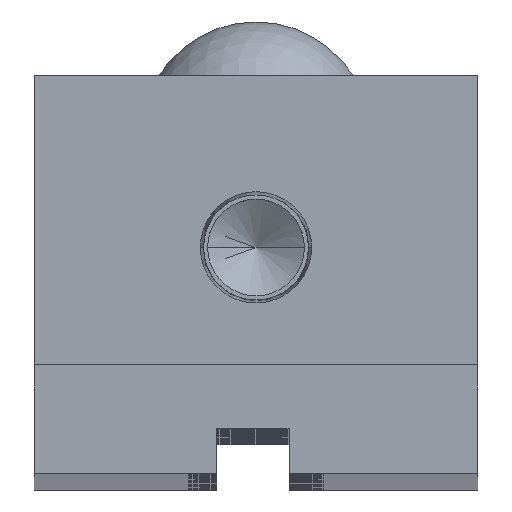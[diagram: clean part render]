
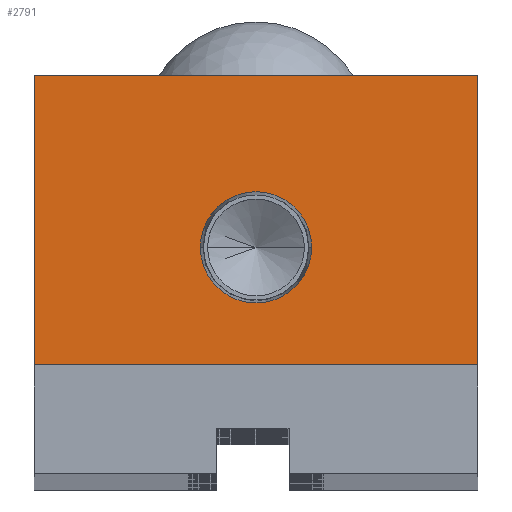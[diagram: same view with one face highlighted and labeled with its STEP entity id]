
A CAD part, top view. The second image highlights one B-rep face of the part: STEP entity #2791.
In plain terms, the highlighted planar face has unit normal (0, 0, 1).
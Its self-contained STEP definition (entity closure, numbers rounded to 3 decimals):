
#630 = CARTESIAN_POINT ( 'NONE',  ( -24.5, 32., 0. ) ) ;
#794 = DIRECTION ( 'NONE',  ( -1., 0., 0. ) ) ;
#1167 = VECTOR ( 'NONE', #4879, 1000. ) ;
#1620 = EDGE_CURVE ( 'NONE', #21570, #3661, #16015, .T. ) ;
#2537 = LINE ( 'NONE', #16406, #11871 ) ;
#2791 = ADVANCED_FACE ( 'NONE', ( #17255, #16683 ), #21151, .F. ) ;
#2955 = VERTEX_POINT ( 'NONE', #7476 ) ;
#2989 = ORIENTED_EDGE ( 'NONE', *, *, #22494, .F. ) ;
#3538 = VERTEX_POINT ( 'NONE', #10480 ) ;
#3661 = VERTEX_POINT ( 'NONE', #14641 ) ;
#3792 = EDGE_LOOP ( 'NONE', ( #11808, #7421, #21189, #14117 ) ) ;
#4011 = CARTESIAN_POINT ( 'NONE',  ( 24.5, 0., 0. ) ) ;
#4463 = DIRECTION ( 'NONE',  ( -1., 0., 0. ) ) ;
#4795 = EDGE_CURVE ( 'NONE', #3661, #6349, #13087, .T. ) ;
#4879 = DIRECTION ( 'NONE',  ( 0., 1., 0. ) ) ;
#5121 = DIRECTION ( 'NONE',  ( 0., 0., 1. ) ) ;
#5313 = DIRECTION ( 'NONE',  ( 1., 0., 0. ) ) ;
#5340 = VERTEX_POINT ( 'NONE', #17421 ) ;
#6049 = EDGE_CURVE ( 'NONE', #6349, #2955, #16997, .T. ) ;
#6349 = VERTEX_POINT ( 'NONE', #630 ) ;
#6477 = VECTOR ( 'NONE', #11431, 1000. ) ;
#7421 = ORIENTED_EDGE ( 'NONE', *, *, #11332, .T. ) ;
#7476 = CARTESIAN_POINT ( 'NONE',  ( -24.5, 0., 0. ) ) ;
#8102 = AXIS2_PLACEMENT_3D ( 'NONE', #20160, #8999, #22020 ) ;
#8136 = CARTESIAN_POINT ( 'NONE',  ( 0., 0., 0. ) ) ;
#8999 = DIRECTION ( 'NONE',  ( 0., 0., 1. ) ) ;
#10310 = CIRCLE ( 'NONE', #8102, 6.154 ) ;
#10480 = CARTESIAN_POINT ( 'NONE',  ( -6.154, 13., 0. ) ) ;
#11332 = EDGE_CURVE ( 'NONE', #2955, #21570, #2537, .T. ) ;
#11431 = DIRECTION ( 'NONE',  ( 0., -1., 0. ) ) ;
#11808 = ORIENTED_EDGE ( 'NONE', *, *, #6049, .T. ) ;
#11871 = VECTOR ( 'NONE', #5313, 1000. ) ;
#12396 = CARTESIAN_POINT ( 'NONE',  ( 24.5, 32., 0. ) ) ;
#12442 = EDGE_LOOP ( 'NONE', ( #16424, #2989 ) ) ;
#13087 = LINE ( 'NONE', #23092, #22380 ) ;
#14117 = ORIENTED_EDGE ( 'NONE', *, *, #4795, .T. ) ;
#14490 = AXIS2_PLACEMENT_3D ( 'NONE', #16284, #5121, #18157 ) ;
#14641 = CARTESIAN_POINT ( 'NONE',  ( 24.5, 32., 0. ) ) ;
#15628 = DIRECTION ( 'NONE',  ( 0., 0., -1. ) ) ;
#16015 = LINE ( 'NONE', #12396, #1167 ) ;
#16284 = CARTESIAN_POINT ( 'NONE',  ( 0., 13., 0. ) ) ;
#16406 = CARTESIAN_POINT ( 'NONE',  ( 24.5, 0., 0. ) ) ;
#16424 = ORIENTED_EDGE ( 'NONE', *, *, #21855, .F. ) ;
#16683 = FACE_OUTER_BOUND ( 'NONE', #3792, .T. ) ;
#16997 = LINE ( 'NONE', #22585, #6477 ) ;
#17255 = FACE_BOUND ( 'NONE', #12442, .T. ) ;
#17421 = CARTESIAN_POINT ( 'NONE',  ( 6.154, 13., 0. ) ) ;
#18157 = DIRECTION ( 'NONE',  ( 1., 0., 0. ) ) ;
#18161 = AXIS2_PLACEMENT_3D ( 'NONE', #8136, #15628, #4463 ) ;
#20160 = CARTESIAN_POINT ( 'NONE',  ( 0., 13., 0. ) ) ;
#21151 = PLANE ( 'NONE',  #18161 ) ;
#21189 = ORIENTED_EDGE ( 'NONE', *, *, #1620, .T. ) ;
#21570 = VERTEX_POINT ( 'NONE', #4011 ) ;
#21855 = EDGE_CURVE ( 'NONE', #5340, #3538, #23747, .T. ) ;
#22020 = DIRECTION ( 'NONE',  ( 1., 0., 0. ) ) ;
#22380 = VECTOR ( 'NONE', #794, 1000. ) ;
#22494 = EDGE_CURVE ( 'NONE', #3538, #5340, #10310, .T. ) ;
#22585 = CARTESIAN_POINT ( 'NONE',  ( -24.5, 0., 0. ) ) ;
#23092 = CARTESIAN_POINT ( 'NONE',  ( -24.5, 32., 0. ) ) ;
#23747 = CIRCLE ( 'NONE', #14490, 6.154 ) ;
